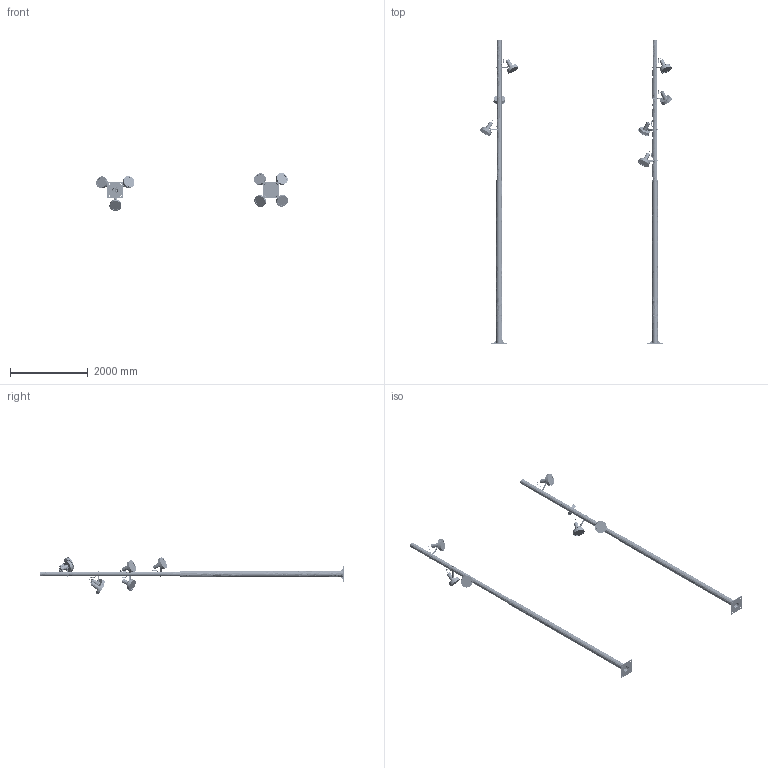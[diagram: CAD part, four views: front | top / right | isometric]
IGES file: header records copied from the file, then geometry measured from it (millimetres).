
Start section: SolidWorks IGES file using analytic representation for surfaces
Global section: file name: C:\SANTACOLE_PDM\Proyectos Catálogo\PROD-P12-019 -- ARNE PROYECTOR LED\6_Técnico comercial\3D WEB\IGES\Arne Columna 7,8m 2S 3L-Columna 7,8m 2S 4L.IGS; native system: SolidWorks 2013; preprocessor: SolidWorks 2013; author: jordi.munoz; date: 150508.123258; units: millimetre
Bounding box: 4933.23 x 7800 x 978.85 mm (x, y, z)
Surface area: 19586309.7 mm2 (no closed solid volume)
Topology: 0 solids, 0 shells, 18962 faces, 165439 edges, 164231 vertices
Faces by surface type: bspline 12675, revolution 6287
